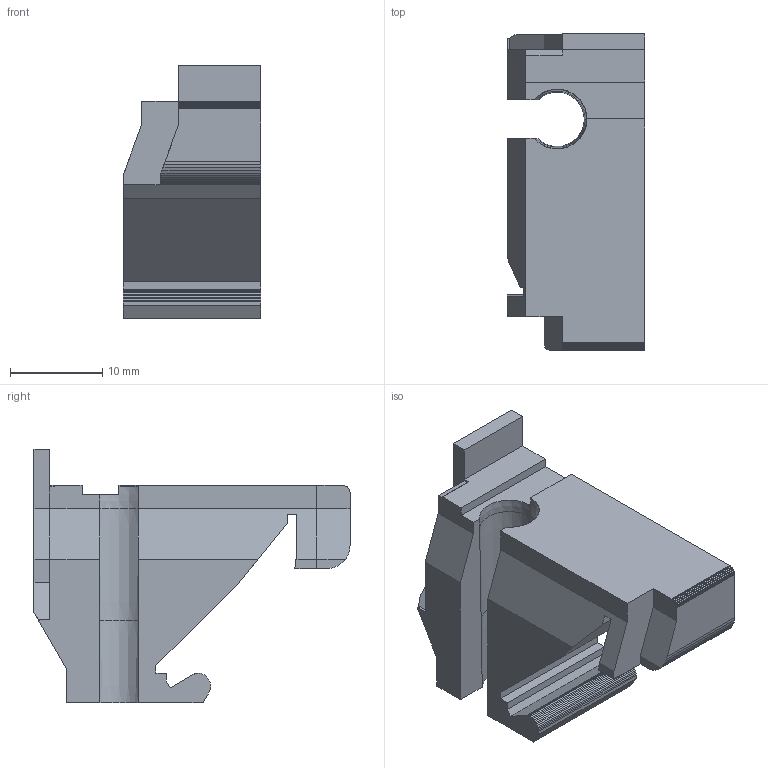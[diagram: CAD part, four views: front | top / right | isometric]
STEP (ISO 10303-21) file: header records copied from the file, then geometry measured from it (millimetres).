
FILE_DESCRIPTION(('Open CASCADE Model'),'2;1');
FILE_NAME('Open CASCADE Shape Model','2026-10-27T10:01:13',('Author'),( 'Open CASCADE'),'Open CASCADE STEP processor 8.0','build123d', 'Unknown');
FILE_SCHEMA(('AUTOMOTIVE_DESIGN { 1 0 10303 214 1 1 1 1 }'));
Length unit declared in the file: millimetre
Products named in the file (1): SOLID
Bounding box: 14.9 x 34.2 x 27.4 mm (x, y, z)
Volume: 6421.9 mm3; surface area: 3223.2 mm2
Topology: 1 solids, 1 shells, 101 faces, 296 edges, 197 vertices
Faces by surface type: plane 97, cone 3, cylinder 1
Entity records: 6863 total; most frequent: CARTESIAN_POINT 1915, DIRECTION 593, ORIENTED_EDGE 592, PCURVE 592, DEFINITIONAL_REPRESENTATION 592, B_SPLINE_CURVE_WITH_KNOTS 504, LINE 375, VECTOR 375
